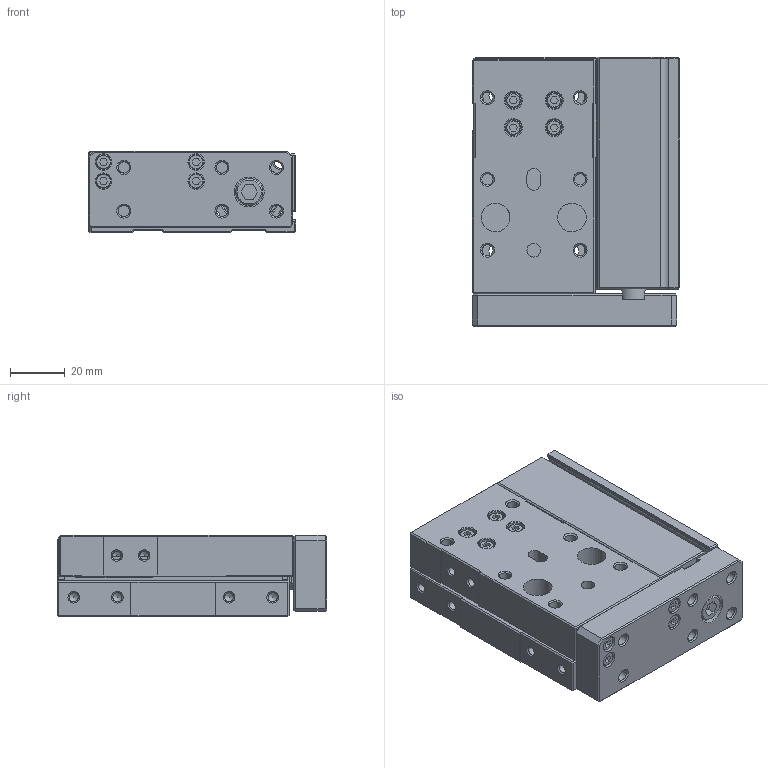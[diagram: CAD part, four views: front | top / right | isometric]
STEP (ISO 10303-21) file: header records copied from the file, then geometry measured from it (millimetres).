
FILE_DESCRIPTION((''),'2;1');
FILE_NAME('I:\3D電子目錄\氣缸\FMR(L)\FMR(L)\FMR20x30.stp','2007-10-15T16:04:29',('Administrator'),(''),'Autodesk Inventor 11','Autodesk Inventor 11','');
FILE_SCHEMA(('AUTOMOTIVE_DESIGN { 1 0 10303 214 1 1 1 1 }'));
Length unit declared in the file: millimetre
Products named in the file (1): FMR20x30
Bounding box: 76 x 98.8 x 30 mm (x, y, z)
Volume: 166952.6 mm3; surface area: 58716.4 mm2
Topology: 1 solids, 14 shells, 560 faces, 1292 edges, 812 vertices
Faces by surface type: plane 348, bspline 96, cylinder 68, cone 48
Full cylindrical faces by diameter (mm): 1 x2, 2 x2, 4.2 x1, 5 x3, 5.5 x8, 6 x1, 6.5 x1, 8 x2, 10 x4, 10.5 x2, 12 x1, 13 x1, 15 x1, 17.5 x2, 20 x3, 22 x4, 23.2 x2
Entity records: 15621 total; most frequent: CARTESIAN_POINT 3884, DIRECTION 2331, ORIENTED_EDGE 2176, EDGE_CURVE 1088, EDGE_LOOP 829, AXIS2_PLACEMENT_3D 792, VERTEX_POINT 763, VECTOR 747
